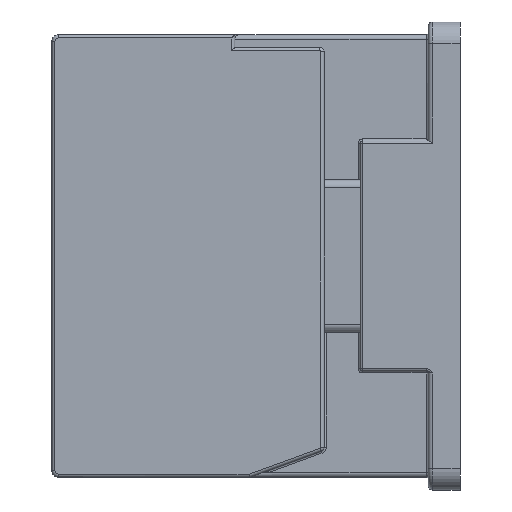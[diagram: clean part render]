
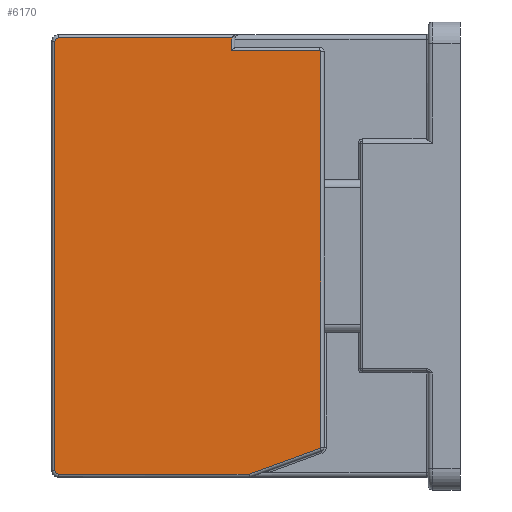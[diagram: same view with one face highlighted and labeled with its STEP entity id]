
A CAD part, left-side view. The second image highlights one B-rep face of the part: STEP entity #6170.
In plain terms, the highlighted planar face has unit normal (-1, 0, 0).
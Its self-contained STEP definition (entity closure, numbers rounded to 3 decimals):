
#292 = EDGE_LOOP ( 'NONE', ( #7870, #3050, #7912, #4566, #9193, #11979, #10300, #11803, #6464, #14161, #361 ) ) ;
#361 = ORIENTED_EDGE ( 'NONE', *, *, #8418, .T. ) ;
#689 = VERTEX_POINT ( 'NONE', #5561 ) ;
#695 = DIRECTION ( 'NONE',  ( -1., 0., 0. ) ) ;
#1785 = DIRECTION ( 'NONE',  ( 0., 0., -1. ) ) ;
#1924 = CARTESIAN_POINT ( 'NONE',  ( -29.9, -63., 48. ) ) ;
#1979 = CARTESIAN_POINT ( 'NONE',  ( -29.9, -63.25, -44.93 ) ) ;
#2063 = CARTESIAN_POINT ( 'NONE',  ( -29.9, -1.5, 50.5 ) ) ;
#2124 = DIRECTION ( 'NONE',  ( 0., 0., 1. ) ) ;
#2127 = CARTESIAN_POINT ( 'NONE',  ( -29.9, -1.5, -51.25 ) ) ;
#2362 = LINE ( 'NONE', #14263, #5151 ) ;
#2795 = VECTOR ( 'NONE', #2124, 1000. ) ;
#2970 = EDGE_CURVE ( 'NONE', #14087, #11790, #11478, .T. ) ;
#3050 = ORIENTED_EDGE ( 'NONE', *, *, #7095, .T. ) ;
#3089 = DIRECTION ( 'NONE',  ( 0., 0., 1. ) ) ;
#3144 = LINE ( 'NONE', #12680, #2795 ) ;
#3241 = DIRECTION ( 'NONE',  ( 0., 0., 1. ) ) ;
#3253 = LINE ( 'NONE', #8151, #12308 ) ;
#3496 = DIRECTION ( 'NONE',  ( -1., 0., 0. ) ) ;
#3750 = VECTOR ( 'NONE', #9781, 1000. ) ;
#3763 = VERTEX_POINT ( 'NONE', #14865 ) ;
#4166 = CARTESIAN_POINT ( 'NONE',  ( -29.9, -0.75, -55. ) ) ;
#4225 = EDGE_CURVE ( 'NONE', #5176, #3763, #2362, .T. ) ;
#4249 = AXIS2_PLACEMENT_3D ( 'NONE', #7804, #695, #8974 ) ;
#4566 = ORIENTED_EDGE ( 'NONE', *, *, #12645, .T. ) ;
#4630 = PLANE ( 'NONE',  #15120 ) ;
#4763 = LINE ( 'NONE', #14301, #10682 ) ;
#4824 = EDGE_CURVE ( 'NONE', #7972, #8162, #4763, .T. ) ;
#5151 = VECTOR ( 'NONE', #13049, 1000. ) ;
#5176 = VERTEX_POINT ( 'NONE', #2127 ) ;
#5314 = EDGE_CURVE ( 'NONE', #11790, #10876, #3253, .T. ) ;
#5561 = CARTESIAN_POINT ( 'NONE',  ( -29.9, -42.25, 51.25 ) ) ;
#5775 = LINE ( 'NONE', #9926, #11686 ) ;
#6132 = FACE_OUTER_BOUND ( 'NONE', #292, .T. ) ;
#6170 = ADVANCED_FACE ( 'NONE', ( #6132 ), #4630, .T. ) ;
#6464 = ORIENTED_EDGE ( 'NONE', *, *, #2970, .T. ) ;
#6616 = CIRCLE ( 'NONE', #13038, 0.25 ) ;
#6873 = LINE ( 'NONE', #14418, #3750 ) ;
#7095 = EDGE_CURVE ( 'NONE', #8162, #689, #3144, .T. ) ;
#7804 = CARTESIAN_POINT ( 'NONE',  ( -29.9, -1.5, -50.5 ) ) ;
#7870 = ORIENTED_EDGE ( 'NONE', *, *, #4824, .T. ) ;
#7912 = ORIENTED_EDGE ( 'NONE', *, *, #9601, .T. ) ;
#7972 = VERTEX_POINT ( 'NONE', #11697 ) ;
#8053 = DIRECTION ( 'NONE',  ( 0., 0., 1. ) ) ;
#8151 = CARTESIAN_POINT ( 'NONE',  ( -29.9, -63.25, -55. ) ) ;
#8162 = VERTEX_POINT ( 'NONE', #14372 ) ;
#8418 = EDGE_CURVE ( 'NONE', #10876, #7972, #6616, .T. ) ;
#8746 = CIRCLE ( 'NONE', #4249, 0.75 ) ;
#8974 = DIRECTION ( 'NONE',  ( 0., 0., 1. ) ) ;
#9145 = CIRCLE ( 'NONE', #9611, 0.75 ) ;
#9193 = ORIENTED_EDGE ( 'NONE', *, *, #10234, .T. ) ;
#9386 = CARTESIAN_POINT ( 'NONE',  ( -29.9, -96., -55. ) ) ;
#9601 = EDGE_CURVE ( 'NONE', #689, #10750, #6873, .T. ) ;
#9611 = AXIS2_PLACEMENT_3D ( 'NONE', #2063, #10316, #3241 ) ;
#9694 = EDGE_CURVE ( 'NONE', #3763, #14087, #5775, .T. ) ;
#9781 = DIRECTION ( 'NONE',  ( 0., 1., 0. ) ) ;
#9926 = CARTESIAN_POINT ( 'NONE',  ( -29.9, -88.989, -35.737 ) ) ;
#10156 = CARTESIAN_POINT ( 'NONE',  ( -29.9, -63.086, -45.165 ) ) ;
#10177 = DIRECTION ( 'NONE',  ( -1., 0., 0. ) ) ;
#10234 = EDGE_CURVE ( 'NONE', #15045, #11699, #10943, .T. ) ;
#10300 = ORIENTED_EDGE ( 'NONE', *, *, #4225, .T. ) ;
#10316 = DIRECTION ( 'NONE',  ( -1., 0., 0. ) ) ;
#10567 = VECTOR ( 'NONE', #1785, 1000. ) ;
#10682 = VECTOR ( 'NONE', #12519, 1000. ) ;
#10750 = VERTEX_POINT ( 'NONE', #11025 ) ;
#10876 = VERTEX_POINT ( 'NONE', #11328 ) ;
#10943 = LINE ( 'NONE', #4166, #10567 ) ;
#11025 = CARTESIAN_POINT ( 'NONE',  ( -29.9, -1.5, 51.25 ) ) ;
#11328 = CARTESIAN_POINT ( 'NONE',  ( -29.9, -63.25, 48. ) ) ;
#11478 = CIRCLE ( 'NONE', #14946, 0.25 ) ;
#11686 = VECTOR ( 'NONE', #12295, 1000. ) ;
#11697 = CARTESIAN_POINT ( 'NONE',  ( -29.9, -63., 48.25 ) ) ;
#11699 = VERTEX_POINT ( 'NONE', #12454 ) ;
#11764 = DIRECTION ( 'NONE',  ( 0., 0., 1. ) ) ;
#11790 = VERTEX_POINT ( 'NONE', #1979 ) ;
#11803 = ORIENTED_EDGE ( 'NONE', *, *, #9694, .T. ) ;
#11979 = ORIENTED_EDGE ( 'NONE', *, *, #14049, .T. ) ;
#12295 = DIRECTION ( 'NONE',  ( 0., -0.94, 0.342 ) ) ;
#12308 = VECTOR ( 'NONE', #8053, 1000. ) ;
#12454 = CARTESIAN_POINT ( 'NONE',  ( -29.9, -0.75, -50.5 ) ) ;
#12519 = DIRECTION ( 'NONE',  ( 0., 1., 0. ) ) ;
#12645 = EDGE_CURVE ( 'NONE', #10750, #15045, #9145, .T. ) ;
#12680 = CARTESIAN_POINT ( 'NONE',  ( -29.9, -42.25, 52. ) ) ;
#12819 = DIRECTION ( 'NONE',  ( 0., 0., 1. ) ) ;
#12864 = DIRECTION ( 'NONE',  ( -1., 0., 0. ) ) ;
#12883 = CARTESIAN_POINT ( 'NONE',  ( -29.9, -63., -44.93 ) ) ;
#13038 = AXIS2_PLACEMENT_3D ( 'NONE', #1924, #10177, #3089 ) ;
#13049 = DIRECTION ( 'NONE',  ( 0., -1., 0. ) ) ;
#13345 = CARTESIAN_POINT ( 'NONE',  ( -29.9, -0.75, 50.5 ) ) ;
#14049 = EDGE_CURVE ( 'NONE', #11699, #5176, #8746, .T. ) ;
#14087 = VERTEX_POINT ( 'NONE', #10156 ) ;
#14161 = ORIENTED_EDGE ( 'NONE', *, *, #5314, .T. ) ;
#14263 = CARTESIAN_POINT ( 'NONE',  ( -29.9, -46.5, -51.25 ) ) ;
#14301 = CARTESIAN_POINT ( 'NONE',  ( -29.9, -96., 48.25 ) ) ;
#14372 = CARTESIAN_POINT ( 'NONE',  ( -29.9, -42.25, 48.25 ) ) ;
#14418 = CARTESIAN_POINT ( 'NONE',  ( -29.9, -1.5, 51.25 ) ) ;
#14865 = CARTESIAN_POINT ( 'NONE',  ( -29.9, -46.368, -51.25 ) ) ;
#14946 = AXIS2_PLACEMENT_3D ( 'NONE', #12883, #12864, #12819 ) ;
#15045 = VERTEX_POINT ( 'NONE', #13345 ) ;
#15120 = AXIS2_PLACEMENT_3D ( 'NONE', #9386, #3496, #11764 ) ;
